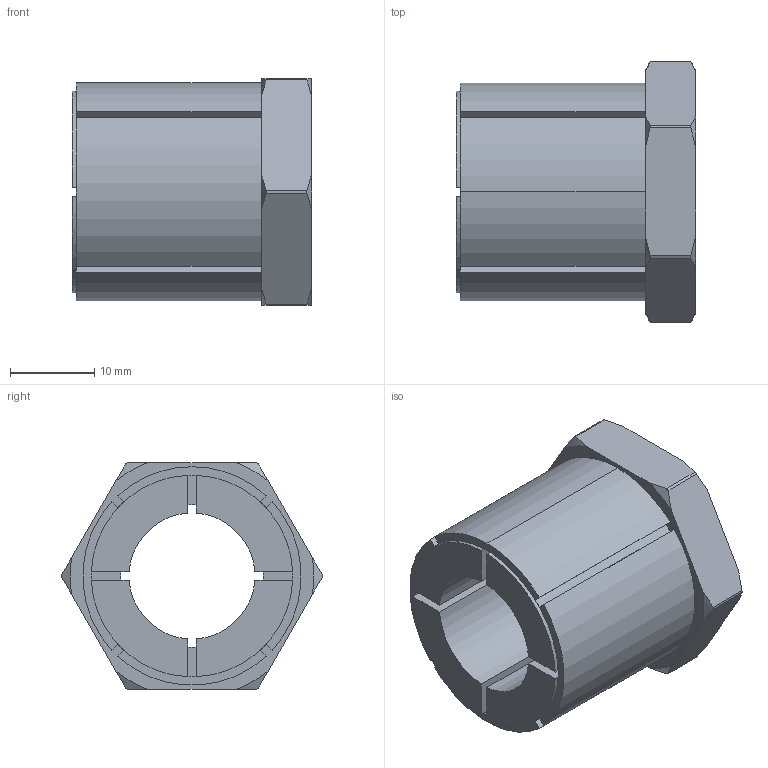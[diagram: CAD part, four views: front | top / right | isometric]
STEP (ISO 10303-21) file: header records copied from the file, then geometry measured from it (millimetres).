
FILE_DESCRIPTION (( 'STEP AP203' ), '1' );
FILE_NAME ('KBS 58 - 15 x 26.STEP', '2015-07-05T19:50:42', ( '' ), ( '' ), 'SwSTEP 2.0', 'SolidWorks 2010', '' );
FILE_SCHEMA (( 'CONFIG_CONTROL_DESIGN' ));
Length unit declared in the file: millimetre
Products named in the file (1): KBS 58 - 15 x 26
Bounding box: 28.5 x 31 x 27 mm (x, y, z)
Volume: 10034.6 mm3; surface area: 5811.2 mm2
Topology: 1 solids, 1 shells, 79 faces, 220 edges, 144 vertices
Faces by surface type: plane 37, cylinder 26, cone 16
Entity records: 2687 total; most frequent: CARTESIAN_POINT 564, ORIENTED_EDGE 440, DIRECTION 428, EDGE_CURVE 220, AXIS2_PLACEMENT_3D 160, VERTEX_POINT 144, LINE 108, VECTOR 108
